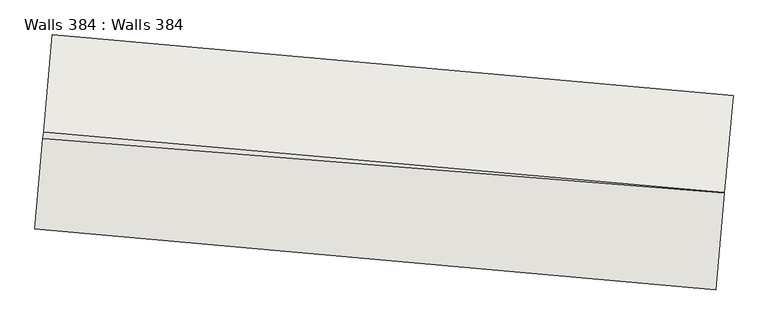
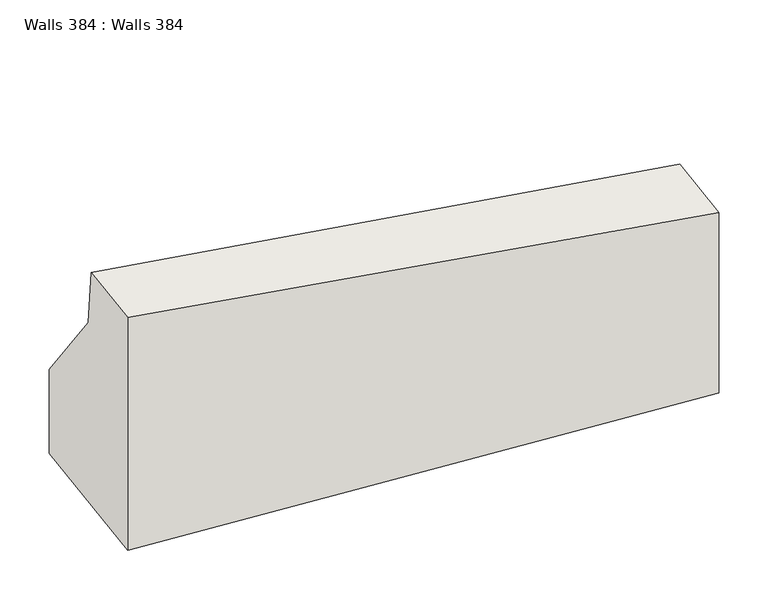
"""IFC4 building model written with IfcOpenShell, lengths in millimetres: wall geometry, Walls 384 : Walls 384."""

import ifcopenshell
import ifcopenshell.guid

model = None  # the IFC model being written
_history = None  # IfcOwnerHistory: only IFC2X3 demands one
_inside = {}  # id of a spatial element -> (the spatial element, [elements in it])
_under = {}  # id of a project, library or spatial element -> (it, [spatial elements below it])
_declared = {}  # id of a project -> (the project, [libraries it declares])
_typed = {}  # id of a type object -> (the type object, [elements of that type])
_made_of = {}  # id of a material, layer set ... -> (it, [elements and type objects made of it])


def new_model(schema):
    """Start an empty IFC model of exactly this schema.

    Asked for "IFC4X3", IfcOpenShell would pick the latest addendum, in which some entities
    have other attributes; the version numbers below select the first issue.
    IFC2X3 requires an IfcOwnerHistory on every rooted entity: one is made here for all.
    """
    global model, _history
    if schema == "IFC4X3":
        model = ifcopenshell.file(schema_version=(4, 3, 0, 0))
    else:
        model = ifcopenshell.file(schema=schema)
    _inside.clear()
    _under.clear()
    _declared.clear()
    _typed.clear()
    _made_of.clear()
    _history = None
    if model.schema == "IFC2X3":
        org = make("IfcOrganization", Name="unknown")
        user = make(
            "IfcPersonAndOrganization",
            ThePerson=make("IfcPerson", FamilyName="unknown"),
            TheOrganization=org,
        )
        app = make(
            "IfcApplication",
            ApplicationDeveloper=org,
            Version="unknown",
            ApplicationFullName="unknown",
            ApplicationIdentifier="unknown",
        )
        _history = make(
            "IfcOwnerHistory",
            OwningUser=user,
            OwningApplication=app,
            ChangeAction="ADDED",
            CreationDate=0,
        )
    return model


def make(cls, **values):
    """One entity of the class cls with the attributes given. An attribute that is None is left unset."""
    return model.create_entity(
        cls, **{name: value for name, value in values.items() if value is not None}
    )


def rooted(cls, **values):
    """An entity with a GlobalId (a new one), such as an element, a storey or a relation."""
    return make(cls, GlobalId=ifcopenshell.guid.new(), OwnerHistory=_history, **values)


def si_unit(unit_type, name, prefix=None):
    """IfcSIUnit, for example si_unit("LENGTHUNIT", "METRE", prefix="MILLI")."""
    return make("IfcSIUnit", UnitType=unit_type, Prefix=prefix, Name=name)


def assignment(units):
    """IfcUnitAssignment: the units of a project."""
    return None if units is None else make("IfcUnitAssignment", Units=units)


def point(xyz):
    """IfcCartesianPoint."""
    return None if xyz is None else make("IfcCartesianPoint", Coordinates=xyz)


def direction(xyz):
    """IfcDirection."""
    return None if xyz is None else make("IfcDirection", DirectionRatios=xyz)


def frame(location, z_axis=None, x_axis=None):
    """IfcAxis2Placement3D, a coordinate frame: its origin and axes. An axis left out is left unset."""
    return make(
        "IfcAxis2Placement3D",
        Location=point(location),
        Axis=direction(z_axis),
        RefDirection=direction(x_axis),
    )


def origin():
    """The frame at (0, 0, 0) with its axes left unset."""
    return frame((0.0, 0.0, 0.0))


def place(relative_to, where):
    """IfcLocalPlacement: puts the frame where relative to a parent placement (None: the world)."""
    return make(
        "IfcLocalPlacement", PlacementRelTo=relative_to, RelativePlacement=where
    )


def context(
    kind, dimensions, precision=None, world=None, true_north=None, identifier=None
):
    """IfcGeometricRepresentationContext, for example the 3D "Model" context."""
    return make(
        "IfcGeometricRepresentationContext",
        ContextIdentifier=identifier,
        ContextType=kind,
        CoordinateSpaceDimension=dimensions,
        Precision=precision,
        WorldCoordinateSystem=world,
        TrueNorth=true_north,
    )


def project(units=None, contexts=None):
    """IfcProject with its units and contexts."""
    return rooted(
        "IfcProject",
        Name="project",
        RepresentationContexts=contexts,
        UnitsInContext=assignment(units),
    )


def spatial(cls, under=None, at=None, **own):
    """A site, building, storey or space (cls), placed at a placement, below another one or the project."""
    s = rooted(cls, ObjectPlacement=at, **own)
    if under is not None:
        _under.setdefault(under.id(), (under, []))[1].append(s)
    return s


def faces_of(points, faces, orient=None, outer=None):
    """IfcFace entities. A face is a list of loops; a loop is a list of indices into points, from 0.

    orient and outer hold one flag for each loop. By default every Orientation is true, the
    first loop of a face is its IfcFaceOuterBound and the others are IfcFaceBound.
    """
    made = []
    for i, loops in enumerate(faces):
        bounds = []
        for j, loop in enumerate(loops):
            is_outer = j == 0 if outer is None else outer[i][j]
            bounds.append(
                make(
                    "IfcFaceOuterBound" if is_outer else "IfcFaceBound",
                    Bound=make("IfcPolyLoop", Polygon=[points[k] for k in loop]),
                    Orientation=True if orient is None else orient[i][j],
                )
            )
        made.append(make("IfcFace", Bounds=bounds))
    return made


def faceted_brep(points, faces, orient=None, outer=None, voids=None):
    """IfcFacetedBrep: a solid bounded by flat faces; with voids (closed shells), ...WithVoids."""
    shared = [point(p) for p in points]
    hull = make("IfcClosedShell", CfsFaces=faces_of(shared, faces, orient, outer))
    if voids is None:
        return make("IfcFacetedBrep", Outer=hull)
    return make(
        "IfcFacetedBrepWithVoids",
        Outer=hull,
        Voids=[
            make(cls, CfsFaces=faces_of(shared, fs, o, b)) for cls, fs, o, b in voids
        ],
    )


def shape(context_of_items, identifier, shape_type, items):
    """IfcShapeRepresentation: the items that make up one representation, for example the "Body"."""
    return make(
        "IfcShapeRepresentation",
        ContextOfItems=context_of_items,
        RepresentationIdentifier=identifier,
        RepresentationType=shape_type,
        Items=items,
    )


def source(mapping_origin, context_of_items, identifier, shape_type, items):
    """IfcRepresentationMap: a shape defined once, which mapped items show again and again."""
    return make(
        "IfcRepresentationMap",
        MappingOrigin=mapping_origin,
        MappedRepresentation=shape(context_of_items, identifier, shape_type, items),
    )


def transform(
    local_origin,
    x_axis=None,
    y_axis=None,
    z_axis=None,
    scale=None,
    scale2=None,
    scale3=None,
    uniform=True,
):
    """IfcCartesianTransformationOperator3D, or its non-uniform kind. x_axis, y_axis, z_axis: its Axis1, 2, 3."""
    if uniform:
        return make(
            "IfcCartesianTransformationOperator3D",
            Axis1=direction(x_axis),
            Axis2=direction(y_axis),
            LocalOrigin=point(local_origin),
            Scale=scale,
            Axis3=direction(z_axis),
        )
    return make(
        "IfcCartesianTransformationOperator3DnonUniform",
        Axis1=direction(x_axis),
        Axis2=direction(y_axis),
        LocalOrigin=point(local_origin),
        Scale=scale,
        Axis3=direction(z_axis),
        Scale2=scale2,
        Scale3=scale3,
    )


def mapped(mapping_source, mapping_target):
    """IfcMappedItem: shows the shape of a source again, moved by a transform."""
    return make(
        "IfcMappedItem", MappingSource=mapping_source, MappingTarget=mapping_target
    )


def made_of(thing, what):
    """Note that an element or type object is made of a material, layer set ...; save() writes the relation."""
    if what is not None:
        _made_of.setdefault(what.id(), (what, []))[1].append(thing)
    return thing


def element(
    cls,
    number,
    at=None,
    inside=None,
    cuts=None,
    type_object=None,
    material=None,
    context=None,
    identifier="Body",
    shape_type=None,
    held_by="IfcProductDefinitionShape",
    body=None,
    shapes=None,
    **own,
):
    """One element of the class cls, such as IfcWall. Its Tag is "e" and its number.

    at: its placement. inside: the storey or other place that contains it. cuts: it is an
    opening in that element (IfcRelVoidsElement). A single representation is given by context,
    identifier, shape_type and body (its items); several are given by shapes. held_by: the class
    of the entity that holds the representations. save() writes the other relations.
    """
    e = rooted(cls, Tag="e%d" % number, ObjectPlacement=at, **own)
    if body is not None:
        shapes = [shape(context, identifier, shape_type, body)]
    if shapes is not None:
        e.Representation = make(held_by, Representations=shapes)
    if inside is not None:
        _inside.setdefault(inside.id(), (inside, []))[1].append(e)
    if cuts is not None:
        rooted(
            "IfcRelVoidsElement", RelatingBuildingElement=cuts, RelatedOpeningElement=e
        )
    if type_object is not None:
        _typed.setdefault(type_object.id(), (type_object, []))[1].append(e)
    return made_of(e, material)


def aggregate(whole, parts):
    """IfcRelAggregates: a whole, such as a stair, and the parts it consists of."""
    return rooted("IfcRelAggregates", RelatingObject=whole, RelatedObjects=parts)


def save(model, path):
    """Write the relations noted so far, then the file.

    IfcRelAggregates (storeys below a building ...), IfcRelContainedInSpatialStructure (elements
    in a storey), IfcRelDefinesByType, IfcRelAssociatesMaterial and IfcRelDeclares: one each for
    every whole, place, type object, material and project.
    """
    for whole, parts in _under.values():
        aggregate(whole, parts)
    for where, things in _inside.values():
        rooted(
            "IfcRelContainedInSpatialStructure",
            RelatedElements=things,
            RelatingStructure=where,
        )
    for kind, things in _typed.values():
        rooted("IfcRelDefinesByType", RelatedObjects=things, RelatingType=kind)
    for what, things in _made_of.values():
        rooted("IfcRelAssociatesMaterial", RelatedObjects=things, RelatingMaterial=what)
    for by, libraries in _declared.values():
        rooted("IfcRelDeclares", RelatingContext=by, RelatedDefinitions=libraries)
    model.write(path)


def walls_384_walls_384_5af7823e(model_context):
    return source(origin(), model_context, "Body", "Brep", [
        faceted_brep([(-637381.1752831, -421895.4119609, 637180.0), (-637398.9227482, -422094.6229734, 637430.0), (-637398.9534987, -422094.968141, 637433.5), (-637416.6702132, -422293.8339859, 637433.5), (-637416.6702132, -422293.8339859, 636960.0), (-637381.1752831, -421895.4119609, 636960.0), (-638775.6523704, -421771.1797057, 637180.0), (-638775.6523704, -421771.1797057, 636960.0), (-638811.1473005, -422169.6017306, 636960.0), (-638811.1473005, -422169.6017306, 637570.0), (-638794.6298578, -421984.197422, 637570.0), (-638793.3998355, -421970.3907182, 637430.0)], [[[0, 1, 2, 3, 4, 5]], [[6, 7, 8, 9, 10, 11]], [[1, 0, 6, 11]], [[1, 11, 10, 2]], [[8, 4, 3, 9]], [[5, 4, 8, 7]], [[0, 5, 7, 6]], [[3, 2, 10, 9]]]),
    ])


if __name__ == "__main__":
    model = new_model("IFC4")
    model_context = context("Model", 3, world=origin())
    ifc_project = project(units=[si_unit("LENGTHUNIT", "METRE", prefix="MILLI")], contexts=[model_context])
    site = spatial("IfcSite", under=ifc_project)
    building = spatial("IfcBuilding", under=site)
    placement = place(None, origin())
    walls_384_walls_384_shape = walls_384_walls_384_5af7823e(model_context)
    element("IfcWall", 1, ObjectType="Walls 384 : Walls 384", at=placement, inside=building, context=model_context, shape_type="MappedRepresentation", body=[
        mapped(walls_384_walls_384_shape, transform((0.0, 0.0, 0.0), x_axis=(1.0, 0.0, 0.0), y_axis=(0.0, 1.0, 0.0), z_axis=(0.0, 0.0, 1.0))),
    ])
    save(model, "model.ifc")
